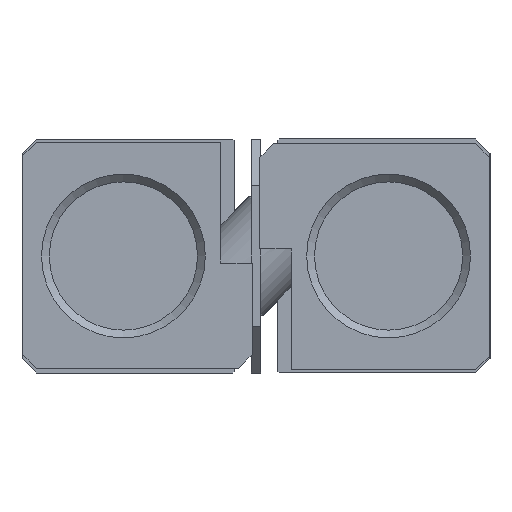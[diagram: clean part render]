
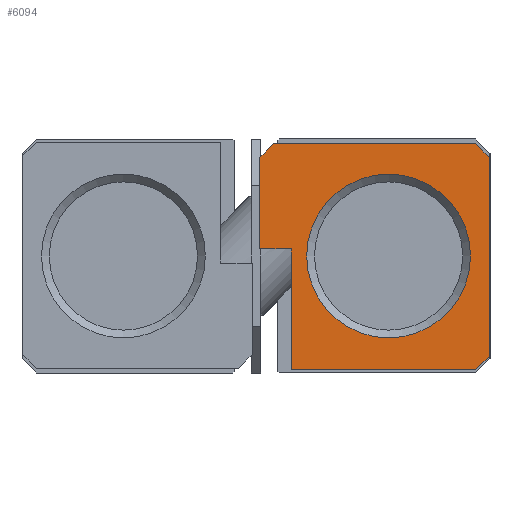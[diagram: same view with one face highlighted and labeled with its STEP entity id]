
A CAD part, left-side view. The second image highlights one B-rep face of the part: STEP entity #6094.
In plain terms, the highlighted planar face has unit normal (-1, 0, 0).
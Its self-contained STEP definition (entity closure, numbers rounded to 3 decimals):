
#246=CIRCLE('',#6483,5.25);
#514=ORIENTED_EDGE('',*,*,#2134,.F.);
#515=ORIENTED_EDGE('',*,*,#2116,.F.);
#516=ORIENTED_EDGE('',*,*,#2133,.F.);
#517=ORIENTED_EDGE('',*,*,#2131,.F.);
#518=ORIENTED_EDGE('',*,*,#2129,.F.);
#519=ORIENTED_EDGE('',*,*,#2127,.F.);
#520=ORIENTED_EDGE('',*,*,#2125,.F.);
#521=ORIENTED_EDGE('',*,*,#2123,.F.);
#522=ORIENTED_EDGE('',*,*,#2121,.F.);
#523=ORIENTED_EDGE('',*,*,#2119,.F.);
#2116=EDGE_CURVE('',#2939,#2940,#3543,.T.);
#2119=EDGE_CURVE('',#2940,#2941,#3546,.T.);
#2121=EDGE_CURVE('',#2941,#2942,#3548,.T.);
#2123=EDGE_CURVE('',#2942,#2943,#3550,.T.);
#2125=EDGE_CURVE('',#2943,#2944,#3552,.T.);
#2127=EDGE_CURVE('',#2944,#2945,#3554,.T.);
#2129=EDGE_CURVE('',#2945,#2946,#3556,.T.);
#2131=EDGE_CURVE('',#2946,#2947,#3558,.T.);
#2133=EDGE_CURVE('',#2947,#2939,#3560,.T.);
#2134=EDGE_CURVE('',#2948,#2948,#246,.T.);
#2939=VERTEX_POINT('',#8952);
#2940=VERTEX_POINT('',#8953);
#2941=VERTEX_POINT('',#8958);
#2942=VERTEX_POINT('',#8962);
#2943=VERTEX_POINT('',#8966);
#2944=VERTEX_POINT('',#8970);
#2945=VERTEX_POINT('',#8974);
#2946=VERTEX_POINT('',#8978);
#2947=VERTEX_POINT('',#8982);
#2948=VERTEX_POINT('',#8988);
#3543=LINE('',#8951,#4142);
#3546=LINE('',#8957,#4145);
#3548=LINE('',#8961,#4147);
#3550=LINE('',#8965,#4149);
#3552=LINE('',#8969,#4151);
#3554=LINE('',#8973,#4153);
#3556=LINE('',#8977,#4155);
#3558=LINE('',#8981,#4157);
#3560=LINE('',#8985,#4159);
#4142=VECTOR('',#7148,1000.);
#4145=VECTOR('',#7153,1000.);
#4147=VECTOR('',#7157,1000.);
#4149=VECTOR('',#7161,1000.);
#4151=VECTOR('',#7165,1000.);
#4153=VECTOR('',#7169,1000.);
#4155=VECTOR('',#7173,1000.);
#4157=VECTOR('',#7177,1000.);
#4159=VECTOR('',#7181,1000.);
#4724=EDGE_LOOP('',(#514));
#4725=EDGE_LOOP('',(#515,#516,#517,#518,#519,#520,#521,#522,#523));
#5293=FACE_BOUND('',#4724,.T.);
#5294=FACE_BOUND('',#4725,.T.);
#5848=PLANE('',#6482);
#6094=ADVANCED_FACE('',(#5293,#5294),#5848,.F.);
#6482=AXIS2_PLACEMENT_3D('',#8986,#7182,#7183);
#6483=AXIS2_PLACEMENT_3D('',#8987,#7184,#7185);
#7148=DIRECTION('',(0.,-1.,0.));
#7153=DIRECTION('',(0.,-0.707,-0.707));
#7157=DIRECTION('',(0.,0.,-1.));
#7161=DIRECTION('',(0.,0.707,-0.707));
#7165=DIRECTION('',(0.,1.,0.));
#7169=DIRECTION('',(0.,0.,1.));
#7173=DIRECTION('',(0.,1.,0.));
#7177=DIRECTION('',(0.,0.,1.));
#7181=DIRECTION('',(0.,-0.707,0.707));
#7182=DIRECTION('',(1.,0.,0.));
#7183=DIRECTION('',(0.,1.,0.));
#7184=DIRECTION('',(-1.,0.,0.));
#7185=DIRECTION('',(0.,0.,1.));
#8951=CARTESIAN_POINT('',(0.,-1.12,7.2));
#8952=CARTESIAN_POINT('',(0.,-1.12,7.2));
#8953=CARTESIAN_POINT('',(0.,-14.08,7.2));
#8957=CARTESIAN_POINT('',(0.,-14.08,7.2));
#8958=CARTESIAN_POINT('',(0.,-14.95,6.33));
#8961=CARTESIAN_POINT('',(0.,-14.95,6.33));
#8962=CARTESIAN_POINT('',(0.,-14.95,-6.43));
#8965=CARTESIAN_POINT('',(0.,-14.95,-6.43));
#8966=CARTESIAN_POINT('',(0.,-14.08,-7.3));
#8969=CARTESIAN_POINT('',(0.,-14.08,-7.3));
#8970=CARTESIAN_POINT('',(0.,-2.25,-7.3));
#8973=CARTESIAN_POINT('',(0.,-2.25,-7.3));
#8974=CARTESIAN_POINT('',(0.,-2.25,0.45));
#8977=CARTESIAN_POINT('',(0.,-2.25,0.45));
#8978=CARTESIAN_POINT('',(0.,-0.25,0.45));
#8981=CARTESIAN_POINT('',(0.,-0.25,0.45));
#8982=CARTESIAN_POINT('',(0.,-0.25,6.33));
#8985=CARTESIAN_POINT('',(0.,-0.25,6.33));
#8986=CARTESIAN_POINT('',(0.,0.,0.));
#8987=CARTESIAN_POINT('',(0.,-8.5,0.));
#8988=CARTESIAN_POINT('',(0.,-8.5,5.25));
